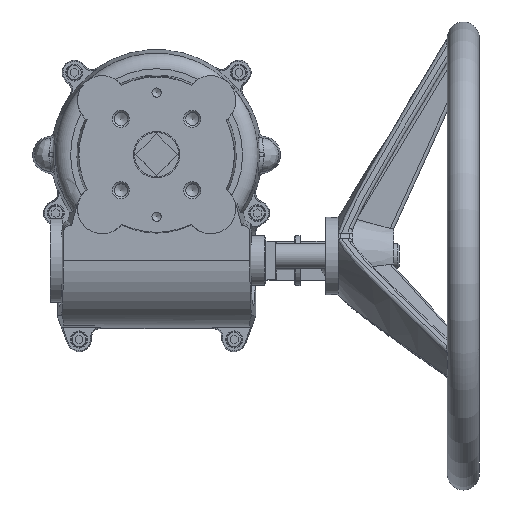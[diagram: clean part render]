
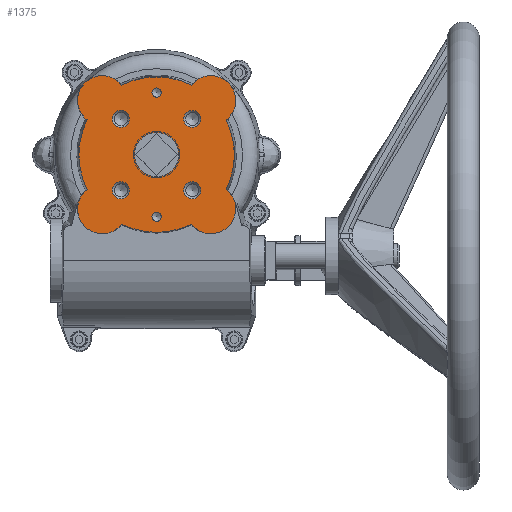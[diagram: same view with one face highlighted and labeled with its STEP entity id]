
A CAD part, top view. The second image highlights one B-rep face of the part: STEP entity #1375.
In plain terms, the highlighted planar face has unit normal (0, 0, 1).
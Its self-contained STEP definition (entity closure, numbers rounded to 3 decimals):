
#1375 = ADVANCED_FACE( '', ( #2972, #2973, #2974, #2975, #2976, #2977, #2978, #2979 ), #2980, .F. );
#2972 = FACE_BOUND( '', #7146, .T. );
#2973 = FACE_BOUND( '', #7147, .T. );
#2974 = FACE_BOUND( '', #7148, .T. );
#2975 = FACE_BOUND( '', #7149, .T. );
#2976 = FACE_BOUND( '', #7150, .T. );
#2977 = FACE_BOUND( '', #7151, .T. );
#2978 = FACE_OUTER_BOUND( '', #7152, .T. );
#2979 = FACE_BOUND( '', #7153, .T. );
#2980 = PLANE( '', #7154 );
#7146 = EDGE_LOOP( '', ( #19692 ) );
#7147 = EDGE_LOOP( '', ( #19693 ) );
#7148 = EDGE_LOOP( '', ( #19694 ) );
#7149 = EDGE_LOOP( '', ( #19695 ) );
#7150 = EDGE_LOOP( '', ( #19696 ) );
#7151 = EDGE_LOOP( '', ( #19697 ) );
#7152 = EDGE_LOOP( '', ( #19698, #19699, #19700, #19701, #19702, #19703, #19704, #19705 ) );
#7153 = EDGE_LOOP( '', ( #19706 ) );
#7154 = AXIS2_PLACEMENT_3D( '', #19707, #19708, #19709 );
#19692 = ORIENTED_EDGE( '', *, *, #24107, .T. );
#19693 = ORIENTED_EDGE( '', *, *, #24359, .T. );
#19694 = ORIENTED_EDGE( '', *, *, #24360, .T. );
#19695 = ORIENTED_EDGE( '', *, *, #24361, .T. );
#19696 = ORIENTED_EDGE( '', *, *, #24362, .T. );
#19697 = ORIENTED_EDGE( '', *, *, #24363, .T. );
#19698 = ORIENTED_EDGE( '', *, *, #24364, .F. );
#19699 = ORIENTED_EDGE( '', *, *, #24365, .F. );
#19700 = ORIENTED_EDGE( '', *, *, #24366, .F. );
#19701 = ORIENTED_EDGE( '', *, *, #24367, .F. );
#19702 = ORIENTED_EDGE( '', *, *, #24114, .T. );
#19703 = ORIENTED_EDGE( '', *, *, #24241, .T. );
#19704 = ORIENTED_EDGE( '', *, *, #24368, .T. );
#19705 = ORIENTED_EDGE( '', *, *, #24369, .F. );
#19706 = ORIENTED_EDGE( '', *, *, #24123, .F. );
#19707 = CARTESIAN_POINT( '', ( 276.883, 112.321, 40.5 ) );
#19708 = DIRECTION( '', ( 0., 0., -1. ) );
#19709 = DIRECTION( '', ( -1., 0., 0. ) );
#24107 = EDGE_CURVE( '', #26258, #26258, #26259, .T. );
#24114 = EDGE_CURVE( '', #26270, #26271, #26272, .T. );
#24123 = EDGE_CURVE( '', #26286, #26286, #26287, .T. );
#24241 = EDGE_CURVE( '', #26271, #26484, #26485, .T. );
#24359 = EDGE_CURVE( '', #26677, #26677, #26678, .T. );
#24360 = EDGE_CURVE( '', #26679, #26679, #26680, .T. );
#24361 = EDGE_CURVE( '', #26681, #26681, #26682, .T. );
#24362 = EDGE_CURVE( '', #26683, #26683, #26684, .T. );
#24363 = EDGE_CURVE( '', #26685, #26685, #26686, .T. );
#24364 = EDGE_CURVE( '', #26687, #26688, #26689, .T. );
#24365 = EDGE_CURVE( '', #26690, #26687, #26691, .T. );
#24366 = EDGE_CURVE( '', #26692, #26690, #26693, .T. );
#24367 = EDGE_CURVE( '', #26270, #26692, #26694, .T. );
#24368 = EDGE_CURVE( '', #26484, #26695, #26696, .T. );
#24369 = EDGE_CURVE( '', #26688, #26695, #26697, .T. );
#26258 = VERTEX_POINT( '', #30217 );
#26259 = CIRCLE( '', #30218, 3. );
#26270 = VERTEX_POINT( '', #30231 );
#26271 = VERTEX_POINT( '', #30232 );
#26272 = CIRCLE( '', #30233, 16. );
#26286 = VERTEX_POINT( '', #30311 );
#26287 = CIRCLE( '', #30312, 14.25 );
#26484 = VERTEX_POINT( '', #31142 );
#26485 = CIRCLE( '', #31143, 50.105 );
#26677 = VERTEX_POINT( '', #31879 );
#26678 = CIRCLE( '', #31880, 3. );
#26679 = VERTEX_POINT( '', #31881 );
#26680 = CIRCLE( '', #31882, 5.5 );
#26681 = VERTEX_POINT( '', #31883 );
#26682 = CIRCLE( '', #31884, 5.5 );
#26683 = VERTEX_POINT( '', #31885 );
#26684 = CIRCLE( '', #31886, 5.5 );
#26685 = VERTEX_POINT( '', #31887 );
#26686 = CIRCLE( '', #31888, 5.5 );
#26687 = VERTEX_POINT( '', #31889 );
#26688 = VERTEX_POINT( '', #31890 );
#26689 = CIRCLE( '', #31891, 16. );
#26690 = VERTEX_POINT( '', #31892 );
#26691 = CIRCLE( '', #31893, 50.105 );
#26692 = VERTEX_POINT( '', #31894 );
#26693 = CIRCLE( '', #31895, 16. );
#26694 = CIRCLE( '', #31896, 50.105 );
#26695 = VERTEX_POINT( '', #31897 );
#26696 = CIRCLE( '', #31898, 16. );
#26697 = CIRCLE( '', #31899, 50.105 );
#30217 = CARTESIAN_POINT( '', ( 0., 67., 40.5 ) );
#30218 = AXIS2_PLACEMENT_3D( '', #40805, #40806, #40807 );
#30231 = CARTESIAN_POINT( '', ( -22.368, 74.835, 40.5 ) );
#30232 = CARTESIAN_POINT( '', ( -44.835, 52.368, 40.5 ) );
#30233 = AXIS2_PLACEMENT_3D( '', #40816, #40817, #40818 );
#30311 = CARTESIAN_POINT( '', ( 14.25, 30., 40.5 ) );
#30312 = AXIS2_PLACEMENT_3D( '', #40828, #40829, #40830 );
#31142 = CARTESIAN_POINT( '', ( -44.835, 7.632, 40.5 ) );
#31143 = AXIS2_PLACEMENT_3D( '', #40995, #40996, #40997 );
#31879 = CARTESIAN_POINT( '', ( 0., -13., 40.5 ) );
#31880 = AXIS2_PLACEMENT_3D( '', #41135, #41136, #41137 );
#31881 = CARTESIAN_POINT( '', ( 23., 12.5, 40.5 ) );
#31882 = AXIS2_PLACEMENT_3D( '', #41138, #41139, #41140 );
#31883 = CARTESIAN_POINT( '', ( -23., 12.5, 40.5 ) );
#31884 = AXIS2_PLACEMENT_3D( '', #41141, #41142, #41143 );
#31885 = CARTESIAN_POINT( '', ( -23., 58.5, 40.5 ) );
#31886 = AXIS2_PLACEMENT_3D( '', #41144, #41145, #41146 );
#31887 = CARTESIAN_POINT( '', ( 23., 58.5, 40.5 ) );
#31888 = AXIS2_PLACEMENT_3D( '', #41147, #41148, #41149 );
#31889 = CARTESIAN_POINT( '', ( 44.835, 7.632, 40.5 ) );
#31890 = CARTESIAN_POINT( '', ( 22.368, -14.835, 40.5 ) );
#31891 = AXIS2_PLACEMENT_3D( '', #41150, #41151, #41152 );
#31892 = CARTESIAN_POINT( '', ( 44.835, 52.368, 40.5 ) );
#31893 = AXIS2_PLACEMENT_3D( '', #41153, #41154, #41155 );
#31894 = CARTESIAN_POINT( '', ( 22.368, 74.835, 40.5 ) );
#31895 = AXIS2_PLACEMENT_3D( '', #41156, #41157, #41158 );
#31896 = AXIS2_PLACEMENT_3D( '', #41159, #41160, #41161 );
#31897 = CARTESIAN_POINT( '', ( -22.368, -14.835, 40.5 ) );
#31898 = AXIS2_PLACEMENT_3D( '', #41162, #41163, #41164 );
#31899 = AXIS2_PLACEMENT_3D( '', #41165, #41166, #41167 );
#40805 = CARTESIAN_POINT( '', ( 0., 70., 40.5 ) );
#40806 = DIRECTION( '', ( 0., 0., -1. ) );
#40807 = DIRECTION( '', ( 0., -1., 0. ) );
#40816 = CARTESIAN_POINT( '', ( -34.95, 64.95, 40.5 ) );
#40817 = DIRECTION( '', ( 0., 0., 1. ) );
#40818 = DIRECTION( '', ( 1., 0., 0. ) );
#40828 = CARTESIAN_POINT( '', ( 0., 30., 40.5 ) );
#40829 = DIRECTION( '', ( 0., 0., 1. ) );
#40830 = DIRECTION( '', ( 1., 0., 0. ) );
#40995 = CARTESIAN_POINT( '', ( 0., 30., 40.5 ) );
#40996 = DIRECTION( '', ( 0., 0., 1. ) );
#40997 = DIRECTION( '', ( 1., 0., 0. ) );
#41135 = CARTESIAN_POINT( '', ( 0., -10., 40.5 ) );
#41136 = DIRECTION( '', ( 0., 0., -1. ) );
#41137 = DIRECTION( '', ( 0., -1., 0. ) );
#41138 = CARTESIAN_POINT( '', ( 23., 7., 40.5 ) );
#41139 = DIRECTION( '', ( 0., 0., -1. ) );
#41140 = DIRECTION( '', ( 0., 1., 0. ) );
#41141 = CARTESIAN_POINT( '', ( -23., 7., 40.5 ) );
#41142 = DIRECTION( '', ( 0., 0., -1. ) );
#41143 = DIRECTION( '', ( 0., 1., 0. ) );
#41144 = CARTESIAN_POINT( '', ( -23., 53., 40.5 ) );
#41145 = DIRECTION( '', ( 0., 0., -1. ) );
#41146 = DIRECTION( '', ( 0., 1., 0. ) );
#41147 = CARTESIAN_POINT( '', ( 23., 53., 40.5 ) );
#41148 = DIRECTION( '', ( 0., 0., -1. ) );
#41149 = DIRECTION( '', ( 0., 1., 0. ) );
#41150 = CARTESIAN_POINT( '', ( 34.95, -4.95, 40.5 ) );
#41151 = DIRECTION( '', ( 0., 0., -1. ) );
#41152 = DIRECTION( '', ( -1., 0., 0. ) );
#41153 = CARTESIAN_POINT( '', ( 0., 30., 40.5 ) );
#41154 = DIRECTION( '', ( 0., 0., -1. ) );
#41155 = DIRECTION( '', ( -1., 0., 0. ) );
#41156 = CARTESIAN_POINT( '', ( 34.95, 64.95, 40.5 ) );
#41157 = DIRECTION( '', ( 0., 0., -1. ) );
#41158 = DIRECTION( '', ( -1., 0., 0. ) );
#41159 = CARTESIAN_POINT( '', ( 0., 30., 40.5 ) );
#41160 = DIRECTION( '', ( 0., 0., -1. ) );
#41161 = DIRECTION( '', ( -1., 0., 0. ) );
#41162 = CARTESIAN_POINT( '', ( -34.95, -4.95, 40.5 ) );
#41163 = DIRECTION( '', ( 0., 0., 1. ) );
#41164 = DIRECTION( '', ( 1., 0., 0. ) );
#41165 = CARTESIAN_POINT( '', ( 0., 30., 40.5 ) );
#41166 = DIRECTION( '', ( 0., 0., -1. ) );
#41167 = DIRECTION( '', ( -1., 0., 0. ) );
